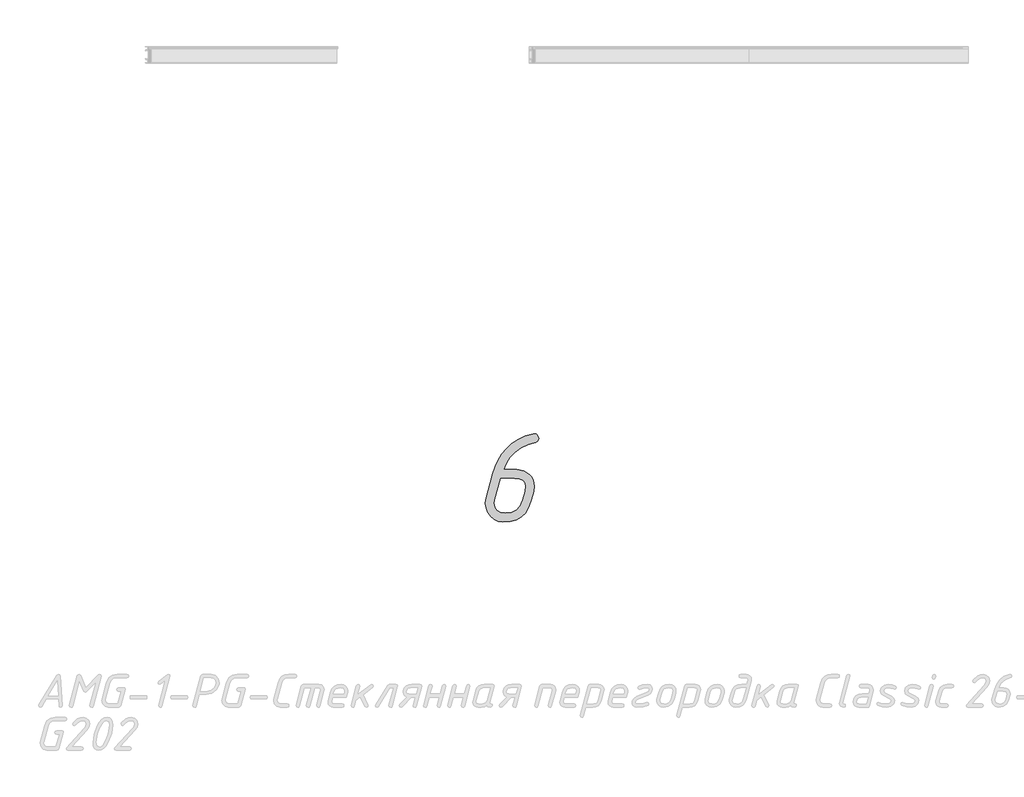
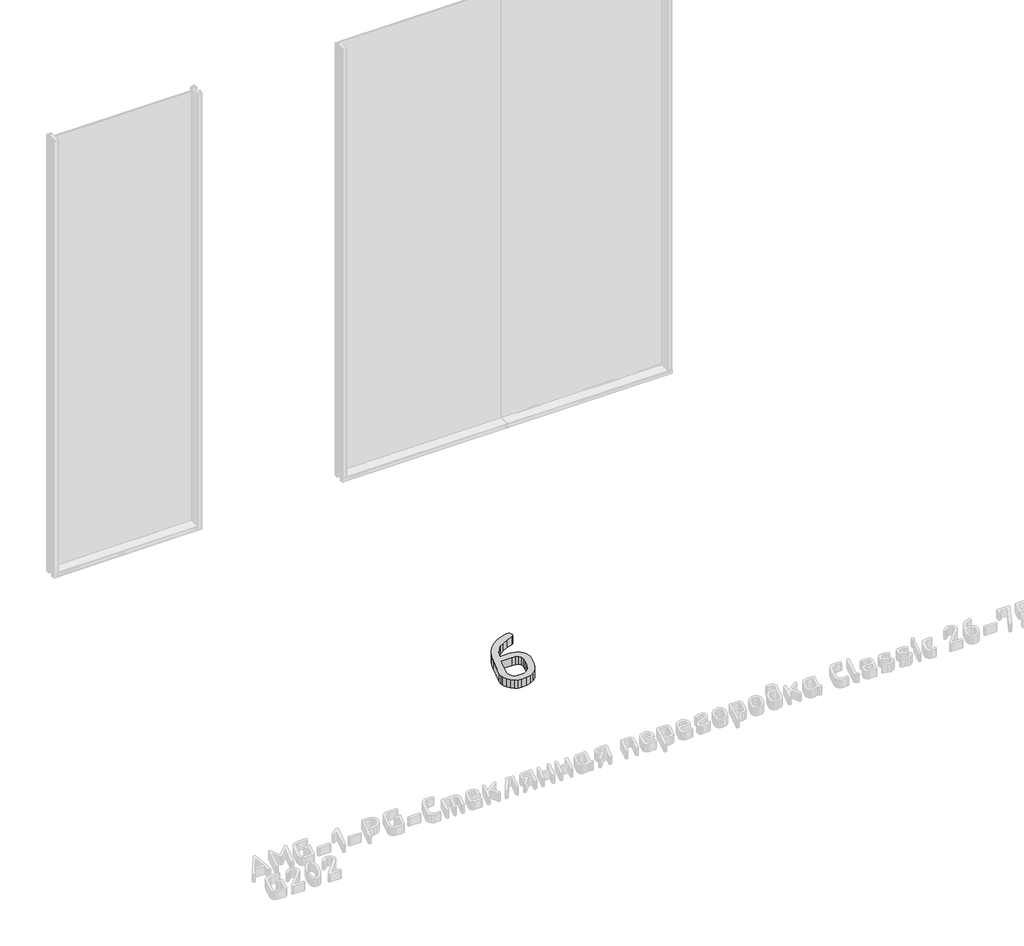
# One storey, part 7 of 22: 1 proxy.
"""IFC4 building model written with IfcOpenShell, lengths in millimetres."""

from ifc_helpers import new_model, si_unit, origin, origin_with_axes, place, context, project, spatial, polyline, outline, extrude, element, save

model = new_model("IFC4")

# Units and contexts
model_context = context("Model", 3, world=origin())
ifc_project = project(units=[si_unit("LENGTHUNIT", "METRE", prefix="MILLI")], contexts=[model_context])

# Site, building, storey
site = spatial("IfcSite", under=ifc_project)
building = spatial("IfcBuilding", under=site)
storey = spatial("IfcBuildingStorey", under=building, Name="Уровень 1", Elevation=0.0)

# Proxy
placement = place(None, origin())
element("IfcBuildingElementProxy", 1, Name="100", ObjectType="100", at=placement, inside=storey, context=model_context, shape_type="SweptSolid", body=[
    extrude(outline(polyline([(-34130.4097258, -34688.1249905), (-34150.5386746, -34685.3616714), (-34168.5235542, -34677.0717139), (-34184.3643644, -34663.2551182), (-34198.0611053, -34643.9118842), (-34206.2112321, -34624.1757928), (-34208.9279411, -34604.1733573), (-34206.797189, -34587.9796413), (-34174.6228321, -34466.526771), (-34164.2220983, -34434.2192421), (-34150.8116772, -34404.7349598), (-34134.3915688, -34378.073924), (-34114.961773, -34354.2361348), (-34089.5525541, -34330.9443507), (-34060.6275942, -34311.7808989), (-34028.1868933, -34296.7457794), (-33992.2304514, -34285.838992), (-33987.1166463, -34285.838992), (-33978.3539283, -34287.1174433), (-33972.094844, -34290.9527971), (-33967.0875765, -34306.2942123), (-33970.4168767, -34319.7712194), (-33980.4047772, -34325.4709813), (-34013.9108541, -34334.2603337), (-34047.7365439, -34351.2530818), (-34075.3364423, -34371.5751301), (-34097.5162401, -34394.7204249), (-34114.2759371, -34420.6889662), (-34125.6155335, -34449.4807541), (-34065.8479368, -34449.4807541), (-34034.3128056, -34454.9008548), (-34008.7437803, -34471.1611568), (-33998.8624173, -34482.7970609), (-33991.804301, -34496.0243705), (-33986.1578079, -34527.2532061), (-33988.9277856, -34548.8803401), (-33999.7946214, -34588.7254045), (-34011.1874866, -34620.3870492), (-34026.2958508, -34645.8029267), (-34045.119714, -34664.9730371), (-34067.6590761, -34677.8973804), (-34095.8116384, -34685.568088), (-34130.4097258, -34688.1249905)]), holes=[polyline([(-34119.8625028, -34647.21455), (-34091.6633304, -34643.5390026), (-34069.177237, -34632.5123604), (-34052.4042227, -34614.1346235), (-34041.3442876, -34588.4057917), (-34030.4774518, -34549.1999529), (-34027.0682484, -34527.2532061), (-34030.1778148, -34511.1260761), (-34039.5065139, -34499.6066975), (-34055.0543457, -34492.6950704), (-34076.8213102, -34490.3911946), (-34138.9327342, -34490.3911946), (-34165.5671356, -34588.4057917), (-34168.0175005, -34603.0014437), (-34164.5683456, -34620.9130786), (-34154.2208806, -34635.0159942), (-34138.7329762, -34644.164911), (-34119.8625028, -34647.21455)])]), origin_with_axes(), (0.0, 0.0, 1.0), 50.0),
])

save(model, "model.ifc")
